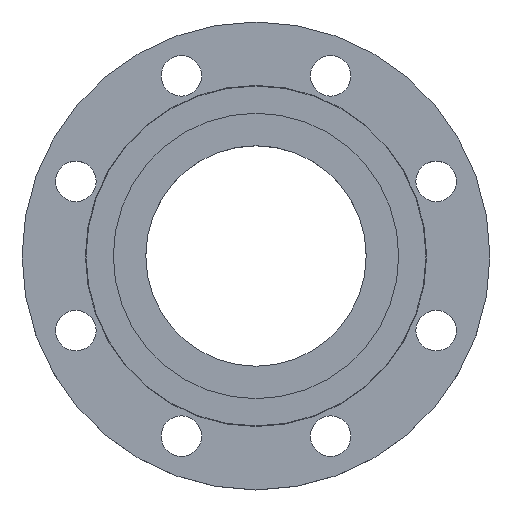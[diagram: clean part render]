
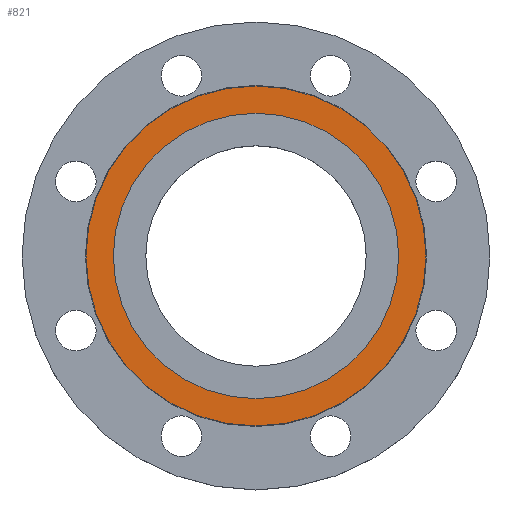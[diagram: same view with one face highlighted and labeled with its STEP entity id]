
A CAD part, top view. The second image highlights one B-rep face of the part: STEP entity #821.
In plain terms, the highlighted planar face has unit normal (0, 0, 1).
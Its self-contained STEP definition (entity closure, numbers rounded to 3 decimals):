
#10 = DIRECTION ( 'NONE',  ( 1., 0., 0. ) ) ;
#11 = DIRECTION ( 'NONE',  ( 0., 0., 1. ) ) ;
#12 = CARTESIAN_POINT ( 'NONE',  ( 0., 0., 0. ) ) ;
#14 = PLANE ( 'NONE',  #21 ) ;
#16 = FACE_BOUND ( 'NONE', #885, .T. ) ;
#17 = FACE_OUTER_BOUND ( 'NONE', #565, .T. ) ;
#21 = AXIS2_PLACEMENT_3D ( 'NONE', #12, #11, #10 ) ;
#106 = CARTESIAN_POINT ( 'NONE',  ( -91.5, 0., 0. ) ) ;
#237 = CARTESIAN_POINT ( 'NONE',  ( 109., 0., 0. ) ) ;
#241 = DIRECTION ( 'NONE',  ( -1., 0., 0. ) ) ;
#242 = DIRECTION ( 'NONE',  ( 0., 0., -1. ) ) ;
#243 = CARTESIAN_POINT ( 'NONE',  ( 0., 0., 0. ) ) ;
#278 = CIRCLE ( 'NONE', #764, 91.5 ) ;
#327 = DIRECTION ( 'NONE',  ( -1., 0., 0. ) ) ;
#328 = DIRECTION ( 'NONE',  ( 0., 0., -1. ) ) ;
#332 = CARTESIAN_POINT ( 'NONE',  ( 0., 0., 0. ) ) ;
#365 = CARTESIAN_POINT ( 'NONE',  ( 0., 0., 0. ) ) ;
#368 = DIRECTION ( 'NONE',  ( -1., 0., 0. ) ) ;
#391 = DIRECTION ( 'NONE',  ( 0., 0., -1. ) ) ;
#396 = EDGE_CURVE ( 'NONE', #918, #904, #657, .T. ) ;
#404 = DIRECTION ( 'NONE',  ( 0., 0., -1. ) ) ;
#427 = CARTESIAN_POINT ( 'NONE',  ( 0., 0., 0. ) ) ;
#472 = EDGE_CURVE ( 'NONE', #926, #893, #278, .T. ) ;
#506 = CARTESIAN_POINT ( 'NONE',  ( -109., 0., 0. ) ) ;
#535 = AXIS2_PLACEMENT_3D ( 'NONE', #427, #404, #742 ) ;
#552 = EDGE_CURVE ( 'NONE', #893, #926, #776, .T. ) ;
#565 = EDGE_LOOP ( 'NONE', ( #1052, #1053 ) ) ;
#647 = AXIS2_PLACEMENT_3D ( 'NONE', #243, #242, #241 ) ;
#652 = EDGE_CURVE ( 'NONE', #904, #918, #797, .T. ) ;
#657 = CIRCLE ( 'NONE', #535, 109. ) ;
#742 = DIRECTION ( 'NONE',  ( -1., 0., 0. ) ) ;
#764 = AXIS2_PLACEMENT_3D ( 'NONE', #365, #391, #368 ) ;
#776 = CIRCLE ( 'NONE', #778, 91.5 ) ;
#778 = AXIS2_PLACEMENT_3D ( 'NONE', #332, #328, #327 ) ;
#797 = CIRCLE ( 'NONE', #647, 109. ) ;
#821 = ADVANCED_FACE ( 'NONE', ( #17, #16 ), #14, .T. ) ;
#885 = EDGE_LOOP ( 'NONE', ( #1054, #1055 ) ) ;
#893 = VERTEX_POINT ( 'NONE', #1008 ) ;
#904 = VERTEX_POINT ( 'NONE', #506 ) ;
#918 = VERTEX_POINT ( 'NONE', #237 ) ;
#926 = VERTEX_POINT ( 'NONE', #106 ) ;
#1008 = CARTESIAN_POINT ( 'NONE',  ( 91.5, 0., 0. ) ) ;
#1052 = ORIENTED_EDGE ( 'NONE', *, *, #652, .F. ) ;
#1053 = ORIENTED_EDGE ( 'NONE', *, *, #396, .F. ) ;
#1054 = ORIENTED_EDGE ( 'NONE', *, *, #472, .T. ) ;
#1055 = ORIENTED_EDGE ( 'NONE', *, *, #552, .T. ) ;
